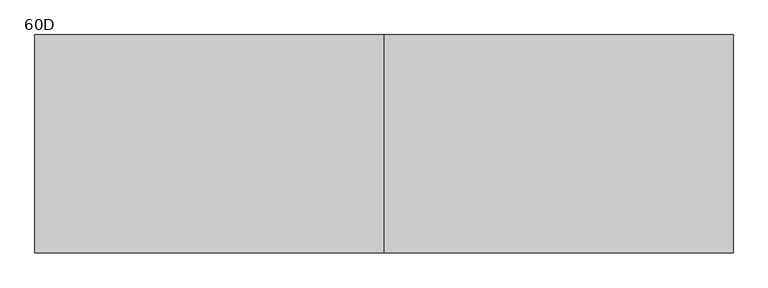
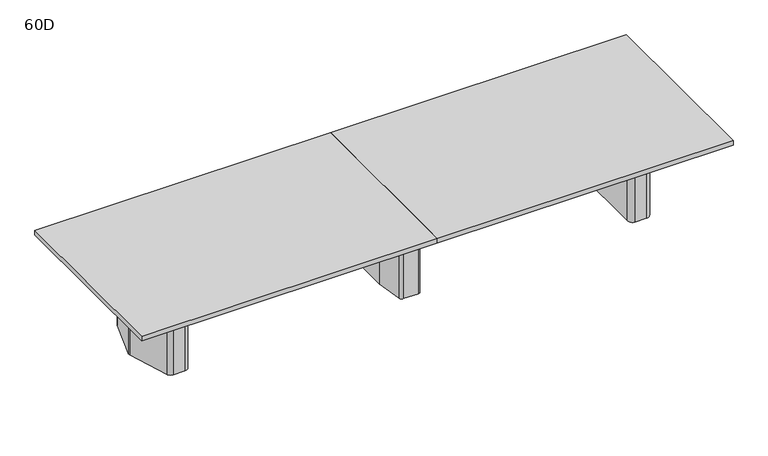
"""IFC4 building model written with IfcOpenShell, lengths in millimetres: furniture geometry, Coalesse_AM_Table_Conference_ETable2_Rectangular_16ft_ThreeBase : 60D."""

import ifcopenshell
import ifcopenshell.guid

model = None  # the IFC model being written
_history = None  # IfcOwnerHistory: only IFC2X3 demands one
_inside = {}  # id of a spatial element -> (the spatial element, [elements in it])
_under = {}  # id of a project, library or spatial element -> (it, [spatial elements below it])
_declared = {}  # id of a project -> (the project, [libraries it declares])
_typed = {}  # id of a type object -> (the type object, [elements of that type])
_made_of = {}  # id of a material, layer set ... -> (it, [elements and type objects made of it])


def new_model(schema):
    """Start an empty IFC model of exactly this schema.

    Asked for "IFC4X3", IfcOpenShell would pick the latest addendum, in which some entities
    have other attributes; the version numbers below select the first issue.
    IFC2X3 requires an IfcOwnerHistory on every rooted entity: one is made here for all.
    """
    global model, _history
    if schema == "IFC4X3":
        model = ifcopenshell.file(schema_version=(4, 3, 0, 0))
    else:
        model = ifcopenshell.file(schema=schema)
    _inside.clear()
    _under.clear()
    _declared.clear()
    _typed.clear()
    _made_of.clear()
    _history = None
    if model.schema == "IFC2X3":
        org = make("IfcOrganization", Name="unknown")
        user = make(
            "IfcPersonAndOrganization",
            ThePerson=make("IfcPerson", FamilyName="unknown"),
            TheOrganization=org,
        )
        app = make(
            "IfcApplication",
            ApplicationDeveloper=org,
            Version="unknown",
            ApplicationFullName="unknown",
            ApplicationIdentifier="unknown",
        )
        _history = make(
            "IfcOwnerHistory",
            OwningUser=user,
            OwningApplication=app,
            ChangeAction="ADDED",
            CreationDate=0,
        )
    return model


def make(cls, **values):
    """One entity of the class cls with the attributes given. An attribute that is None is left unset."""
    return model.create_entity(
        cls, **{name: value for name, value in values.items() if value is not None}
    )


def rooted(cls, **values):
    """An entity with a GlobalId (a new one), such as an element, a storey or a relation."""
    return make(cls, GlobalId=ifcopenshell.guid.new(), OwnerHistory=_history, **values)


def si_unit(unit_type, name, prefix=None):
    """IfcSIUnit, for example si_unit("LENGTHUNIT", "METRE", prefix="MILLI")."""
    return make("IfcSIUnit", UnitType=unit_type, Prefix=prefix, Name=name)


def assignment(units):
    """IfcUnitAssignment: the units of a project."""
    return None if units is None else make("IfcUnitAssignment", Units=units)


def point(xyz):
    """IfcCartesianPoint."""
    return None if xyz is None else make("IfcCartesianPoint", Coordinates=xyz)


def direction(xyz):
    """IfcDirection."""
    return None if xyz is None else make("IfcDirection", DirectionRatios=xyz)


def frame(location, z_axis=None, x_axis=None):
    """IfcAxis2Placement3D, a coordinate frame: its origin and axes. An axis left out is left unset."""
    return make(
        "IfcAxis2Placement3D",
        Location=point(location),
        Axis=direction(z_axis),
        RefDirection=direction(x_axis),
    )


def frame_2d(location, x_axis=None):
    """IfcAxis2Placement2D, a coordinate frame in the plane: its origin and x axis."""
    return make(
        "IfcAxis2Placement2D", Location=point(location), RefDirection=direction(x_axis)
    )


def origin():
    """The frame at (0, 0, 0) with its axes left unset."""
    return frame((0.0, 0.0, 0.0))


def origin_with_axes():
    """The frame at (0, 0, 0) with the z axis (0, 0, 1) and the x axis (1, 0, 0) written out."""
    return frame((0.0, 0.0, 0.0), z_axis=(0.0, 0.0, 1.0), x_axis=(1.0, 0.0, 0.0))


def place(relative_to, where):
    """IfcLocalPlacement: puts the frame where relative to a parent placement (None: the world)."""
    return make(
        "IfcLocalPlacement", PlacementRelTo=relative_to, RelativePlacement=where
    )


def context(
    kind, dimensions, precision=None, world=None, true_north=None, identifier=None
):
    """IfcGeometricRepresentationContext, for example the 3D "Model" context."""
    return make(
        "IfcGeometricRepresentationContext",
        ContextIdentifier=identifier,
        ContextType=kind,
        CoordinateSpaceDimension=dimensions,
        Precision=precision,
        WorldCoordinateSystem=world,
        TrueNorth=true_north,
    )


def project(units=None, contexts=None):
    """IfcProject with its units and contexts."""
    return rooted(
        "IfcProject",
        Name="project",
        RepresentationContexts=contexts,
        UnitsInContext=assignment(units),
    )


def spatial(cls, under=None, at=None, **own):
    """A site, building, storey or space (cls), placed at a placement, below another one or the project."""
    s = rooted(cls, ObjectPlacement=at, **own)
    if under is not None:
        _under.setdefault(under.id(), (under, []))[1].append(s)
    return s


def polyline(points):
    """IfcPolyline through the points."""
    return make("IfcPolyline", Points=[point(p) for p in points])


def circle_curve(where, radius):
    """IfcCircle in the frame where."""
    return make("IfcCircle", Position=where, Radius=radius)


def trimmed(basis, trim1, trim2, sense, master):
    """IfcTrimmedCurve: the piece of a basis curve between two trims."""
    return make(
        "IfcTrimmedCurve",
        BasisCurve=basis,
        Trim1=trim1,
        Trim2=trim2,
        SenseAgreement=sense,
        MasterRepresentation=master,
    )


def segment(curve, same_sense, transition):
    """IfcCompositeCurveSegment."""
    return make(
        "IfcCompositeCurveSegment",
        Transition=transition,
        SameSense=same_sense,
        ParentCurve=curve,
    )


def composite_curve(segments, self_intersect=None):
    """IfcCompositeCurve: segments joined end to end."""
    return make("IfcCompositeCurve", Segments=segments, SelfIntersect=self_intersect)


def outline(outer, holes=None, kind="AREA"):
    """IfcArbitraryClosedProfileDef: a profile drawn as a closed curve; with holes, ...WithVoids."""
    if holes is None:
        return make("IfcArbitraryClosedProfileDef", ProfileType=kind, OuterCurve=outer)
    return make(
        "IfcArbitraryProfileDefWithVoids",
        ProfileType=kind,
        OuterCurve=outer,
        InnerCurves=holes,
    )


def extrude(swept, where, along, depth):
    """IfcExtrudedAreaSolid: the profile swept, set in the frame where, extruded along a direction by depth."""
    return make(
        "IfcExtrudedAreaSolid",
        SweptArea=swept,
        Position=where,
        ExtrudedDirection=direction(along),
        Depth=depth,
    )


def shape(context_of_items, identifier, shape_type, items):
    """IfcShapeRepresentation: the items that make up one representation, for example the "Body"."""
    return make(
        "IfcShapeRepresentation",
        ContextOfItems=context_of_items,
        RepresentationIdentifier=identifier,
        RepresentationType=shape_type,
        Items=items,
    )


def source(mapping_origin, context_of_items, identifier, shape_type, items):
    """IfcRepresentationMap: a shape defined once, which mapped items show again and again."""
    return make(
        "IfcRepresentationMap",
        MappingOrigin=mapping_origin,
        MappedRepresentation=shape(context_of_items, identifier, shape_type, items),
    )


def transform(
    local_origin,
    x_axis=None,
    y_axis=None,
    z_axis=None,
    scale=None,
    scale2=None,
    scale3=None,
    uniform=True,
):
    """IfcCartesianTransformationOperator3D, or its non-uniform kind. x_axis, y_axis, z_axis: its Axis1, 2, 3."""
    if uniform:
        return make(
            "IfcCartesianTransformationOperator3D",
            Axis1=direction(x_axis),
            Axis2=direction(y_axis),
            LocalOrigin=point(local_origin),
            Scale=scale,
            Axis3=direction(z_axis),
        )
    return make(
        "IfcCartesianTransformationOperator3DnonUniform",
        Axis1=direction(x_axis),
        Axis2=direction(y_axis),
        LocalOrigin=point(local_origin),
        Scale=scale,
        Axis3=direction(z_axis),
        Scale2=scale2,
        Scale3=scale3,
    )


def mapped(mapping_source, mapping_target):
    """IfcMappedItem: shows the shape of a source again, moved by a transform."""
    return make(
        "IfcMappedItem", MappingSource=mapping_source, MappingTarget=mapping_target
    )


def made_of(thing, what):
    """Note that an element or type object is made of a material, layer set ...; save() writes the relation."""
    if what is not None:
        _made_of.setdefault(what.id(), (what, []))[1].append(thing)
    return thing


def element(
    cls,
    number,
    at=None,
    inside=None,
    cuts=None,
    type_object=None,
    material=None,
    context=None,
    identifier="Body",
    shape_type=None,
    held_by="IfcProductDefinitionShape",
    body=None,
    shapes=None,
    **own,
):
    """One element of the class cls, such as IfcWall. Its Tag is "e" and its number.

    at: its placement. inside: the storey or other place that contains it. cuts: it is an
    opening in that element (IfcRelVoidsElement). A single representation is given by context,
    identifier, shape_type and body (its items); several are given by shapes. held_by: the class
    of the entity that holds the representations. save() writes the other relations.
    """
    e = rooted(cls, Tag="e%d" % number, ObjectPlacement=at, **own)
    if body is not None:
        shapes = [shape(context, identifier, shape_type, body)]
    if shapes is not None:
        e.Representation = make(held_by, Representations=shapes)
    if inside is not None:
        _inside.setdefault(inside.id(), (inside, []))[1].append(e)
    if cuts is not None:
        rooted(
            "IfcRelVoidsElement", RelatingBuildingElement=cuts, RelatedOpeningElement=e
        )
    if type_object is not None:
        _typed.setdefault(type_object.id(), (type_object, []))[1].append(e)
    return made_of(e, material)


def aggregate(whole, parts):
    """IfcRelAggregates: a whole, such as a stair, and the parts it consists of."""
    return rooted("IfcRelAggregates", RelatingObject=whole, RelatedObjects=parts)


def save(model, path):
    """Write the relations noted so far, then the file.

    IfcRelAggregates (storeys below a building ...), IfcRelContainedInSpatialStructure (elements
    in a storey), IfcRelDefinesByType, IfcRelAssociatesMaterial and IfcRelDeclares: one each for
    every whole, place, type object, material and project.
    """
    for whole, parts in _under.values():
        aggregate(whole, parts)
    for where, things in _inside.values():
        rooted(
            "IfcRelContainedInSpatialStructure",
            RelatedElements=things,
            RelatingStructure=where,
        )
    for kind, things in _typed.values():
        rooted("IfcRelDefinesByType", RelatedObjects=things, RelatingType=kind)
    for what, things in _made_of.values():
        rooted("IfcRelAssociatesMaterial", RelatedObjects=things, RelatingMaterial=what)
    for by, libraries in _declared.values():
        rooted("IfcRelDeclares", RelatingContext=by, RelatedDefinitions=libraries)
    model.write(path)


def plane_surface(at):
    """IfcPlane: the flat surface through the origin of the frame at, square to its z axis."""
    return make("IfcPlane", Position=at)


def cylinder_surface(at, radius):
    """IfcCylindricalSurface: all points at the distance radius from the z axis of the frame at."""
    return make("IfcCylindricalSurface", Position=at, Radius=radius)


def revolved_surface(curve, axis_point, axis_direction):
    """IfcSurfaceOfRevolution: the curve turned about the line through axis_point along axis_direction."""
    return make(
        "IfcSurfaceOfRevolution",
        SweptCurve=make("IfcArbitraryOpenProfileDef", ProfileType="CURVE", Curve=curve),
        AxisPosition=make("IfcAxis1Placement", Location=point(axis_point), Axis=direction(axis_direction)),
    )


def advanced_brep(points, edges, surfaces, faces):
    """IfcAdvancedBrep: a solid bounded by faces that lie on surfaces and meet in shared edges.

    An edge is (start, end): straight between two places in points (the first is 0);
    or (start, end, curve); or (start, end, curve, False) where it runs against its curve.
    A face is (place in surfaces, loops), or (place, loops, False) where it looks against
    its surface's normal. A loop lists edges by number (the first is 1), with a minus sign
    where the edge is run from its end to its start. The first loop is the outer one.
    """
    corners = [point(p) for p in points]
    vertices = [make("IfcVertexPoint", VertexGeometry=c) for c in corners]
    made = []
    for start, end, *more in edges:
        made.append(
            make(
                "IfcEdgeCurve",
                EdgeStart=vertices[start],
                EdgeEnd=vertices[end],
                EdgeGeometry=more[0] if more else make("IfcPolyline", Points=[corners[start], corners[end]]),
                SameSense=more[1] if len(more) > 1 else True,
            )
        )
    hull = []
    for where, loops, *sense in faces:
        bounds = []
        for j, loop in enumerate(loops):
            ring = [make("IfcOrientedEdge", EdgeElement=made[abs(k) - 1], Orientation=k > 0) for k in loop]
            bounds.append(
                make(
                    "IfcFaceOuterBound" if j == 0 else "IfcFaceBound",
                    Bound=make("IfcEdgeLoop", EdgeList=ring),
                    Orientation=True,
                )
            )
        hull.append(make("IfcAdvancedFace", Bounds=bounds, FaceSurface=surfaces[where], SameSense=sense[0] if sense else True))
    return make("IfcAdvancedBrep", Outer=make("IfcClosedShell", CfsFaces=hull))


def furniture_60d_2ea66542(model_context):
    return source(origin(), model_context, "Body", "SolidModel", [
        advanced_brep(
        [(61.0357815, 381.0, 698.5), (-61.0357815, 381.0, 698.5), (-86.1885994, 359.1349332, 698.5), (-117.2278179, 138.2753661, 698.5), (-117.475, 134.740433, 698.5), (-117.475, -134.7404196, 698.5), (-117.2278463, -138.2751502, 698.5), (-86.1904395, -359.1347306, 698.5), (-61.0375932, -381.0, 698.5), (61.0375932, -381.0, 698.5), (86.1904395, -359.1347306, 698.5), (117.2278463, -138.2751502, 698.5), (117.475, -134.7404196, 698.5), (117.475, 134.740433, 698.5), (117.2278179, 138.2753661, 698.5), (86.1885994, 359.1349332, 698.5), (25.4, 314.325, 698.5), (50.8, 288.925, 698.5), (50.8, -288.925, 698.5), (25.4, -314.325, 698.5), (-25.4, -314.325, 698.5), (-50.8, -288.925, 698.5), (-50.8, 288.925, 698.5), (-25.4, 314.325, 698.5), (61.0357815, 381.0, 3.175), (86.1885994, 359.1349332, 3.175), (117.2278179, 138.2753661, 3.175), (117.475, 134.740433, 3.175), (117.475, -134.7404196, 3.175), (117.2278463, -138.2751502, 3.175), (86.1904395, -359.1347306, 3.175), (61.0375932, -381.0, 3.175), (-61.0375932, -381.0, 3.175), (-86.1904395, -359.1347306, 3.175), (-117.2278463, -138.2751502, 3.175), (-117.475, -134.7404196, 3.175), (-117.475, 134.740433, 3.175), (-117.2278179, 138.2753661, 3.175), (-86.1885994, 359.1349332, 3.175), (-61.0357815, 381.0, 3.175), (25.4, 327.025, 3.175), (-25.4, 327.025, 3.175), (-63.5, 288.925, 3.175), (-63.5, -288.925, 3.175), (-25.4, -327.025, 3.175), (25.4, -327.025, 3.175), (63.5, -288.925, 3.175), (63.5, 288.925, 3.175), (25.4, 314.325, 3.175), (50.8, 288.925, 3.175), (50.8, -288.925, 3.175), (25.4, -314.325, 3.175), (-25.4, -314.325, 3.175), (-50.8, -288.925, 3.175), (-50.8, 288.925, 3.175), (-25.4, 314.325, 3.175), (25.4, 327.025, 0.0), (63.5, 288.925, 0.0), (63.5, -288.925, 0.0), (25.4, -327.025, 0.0), (-25.4, -327.025, 0.0), (-63.5, -288.925, 0.0), (-63.5, 288.925, 0.0), (-25.4, 327.025, 0.0)],
        [
            (0, 1),
            (1, 2, circle_curve(frame((-61.0357815, 355.6, 698.5), z_axis=(0.0, 0.0, 1.0), x_axis=(1.0, 0.0, 0.0)), 25.4)),
            (2, 3),
            (3, 4, circle_curve(frame((-92.075, 134.740433, 698.5), z_axis=(0.0, 0.0, 1.0), x_axis=(1.0, 0.0, 0.0)), 25.4)),
            (4, 5),
            (5, 6, circle_curve(frame((-92.075, -134.7404196, 698.5), z_axis=(0.0, 0.0, 1.0), x_axis=(1.0, 0.0, 0.0)), 25.4)),
            (6, 7),
            (7, 8, circle_curve(frame((-61.0375932, -355.6, 698.5), z_axis=(0.0, 0.0, 1.0), x_axis=(1.0, 0.0, 0.0)), 25.4)),
            (8, 9),
            (9, 10, circle_curve(frame((61.0375932, -355.6, 698.5), z_axis=(0.0, 0.0, 1.0), x_axis=(1.0, 0.0, 0.0)), 25.4)),
            (10, 11),
            (11, 12, circle_curve(frame((92.075, -134.7404196, 698.5), z_axis=(0.0, 0.0, 1.0), x_axis=(1.0, 0.0, 0.0)), 25.4)),
            (12, 13),
            (13, 14, circle_curve(frame((92.075, 134.740433, 698.5), z_axis=(0.0, 0.0, 1.0), x_axis=(1.0, 0.0, 0.0)), 25.4)),
            (14, 15),
            (15, 0, circle_curve(frame((61.0357815, 355.6, 698.5), z_axis=(0.0, 0.0, 1.0), x_axis=(1.0, 0.0, 0.0)), 25.4)),
            (16, 17, circle_curve(frame((25.4, 288.925, 698.5), z_axis=(0.0, 0.0, -1.0), x_axis=(1.0, 0.0, 0.0)), 25.4)),
            (17, 18),
            (18, 19, circle_curve(frame((25.4, -288.925, 698.5), z_axis=(0.0, 0.0, -1.0), x_axis=(1.0, 0.0, 0.0)), 25.4)),
            (19, 20),
            (20, 21, circle_curve(frame((-25.4, -288.925, 698.5), z_axis=(0.0, 0.0, -1.0), x_axis=(1.0, 0.0, 0.0)), 25.4)),
            (21, 22),
            (22, 23, circle_curve(frame((-25.4, 288.925, 698.5), z_axis=(0.0, 0.0, -1.0), x_axis=(1.0, 0.0, 0.0)), 25.4)),
            (23, 16),
            (24, 25, circle_curve(frame((61.0357815, 355.6, 3.175), z_axis=(0.0, 0.0, -1.0), x_axis=(1.0, 0.0, 0.0)), 25.4)),
            (25, 26),
            (26, 27, circle_curve(frame((92.075, 134.740433, 3.175), z_axis=(0.0, 0.0, -1.0), x_axis=(1.0, 0.0, 0.0)), 25.4)),
            (27, 28),
            (28, 29, circle_curve(frame((92.075, -134.7404196, 3.175), z_axis=(0.0, 0.0, -1.0), x_axis=(1.0, 0.0, 0.0)), 25.4)),
            (29, 30),
            (30, 31, circle_curve(frame((61.0375932, -355.6, 3.175), z_axis=(0.0, 0.0, -1.0), x_axis=(1.0, 0.0, 0.0)), 25.4)),
            (31, 32),
            (32, 33, circle_curve(frame((-61.0375932, -355.6, 3.175), z_axis=(0.0, 0.0, -1.0), x_axis=(1.0, 0.0, 0.0)), 25.4)),
            (33, 34),
            (34, 35, circle_curve(frame((-92.075, -134.7404196, 3.175), z_axis=(0.0, 0.0, -1.0), x_axis=(1.0, 0.0, 0.0)), 25.4)),
            (35, 36),
            (36, 37, circle_curve(frame((-92.075, 134.740433, 3.175), z_axis=(0.0, 0.0, -1.0), x_axis=(1.0, 0.0, 0.0)), 25.4)),
            (37, 38),
            (38, 39, circle_curve(frame((-61.0357815, 355.6, 3.175), z_axis=(0.0, 0.0, -1.0), x_axis=(1.0, 0.0, 0.0)), 25.4)),
            (39, 24),
            (40, 41),
            (41, 42, circle_curve(frame((-25.4, 288.925, 3.175), z_axis=(0.0, 0.0, 1.0), x_axis=(1.0, 0.0, 0.0)), 38.1)),
            (42, 43),
            (43, 44, circle_curve(frame((-25.4, -288.925, 3.175), z_axis=(0.0, 0.0, 1.0), x_axis=(1.0, 0.0, 0.0)), 38.1)),
            (44, 45),
            (45, 46, circle_curve(frame((25.4, -288.925, 3.175), z_axis=(0.0, 0.0, 1.0), x_axis=(1.0, 0.0, 0.0)), 38.1)),
            (46, 47),
            (47, 40, circle_curve(frame((25.4, 288.925, 3.175), z_axis=(0.0, 0.0, 1.0), x_axis=(1.0, 0.0, 0.0)), 38.1)),
            (0, 24),
            (39, 1),
            (38, 2),
            (37, 3),
            (36, 4),
            (35, 5),
            (34, 6),
            (33, 7),
            (32, 8),
            (31, 9),
            (30, 10),
            (29, 11),
            (28, 12),
            (27, 13),
            (26, 14),
            (25, 15),
            (16, 48),
            (48, 49, circle_curve(frame((25.4, 288.925, 3.175), z_axis=(0.0, 0.0, -1.0), x_axis=(1.0, 0.0, 0.0)), 25.4)),
            (49, 17),
            (49, 50),
            (50, 18),
            (50, 51, circle_curve(frame((25.4, -288.925, 3.175), z_axis=(0.0, 0.0, -1.0), x_axis=(1.0, 0.0, 0.0)), 25.4)),
            (51, 19),
            (51, 52),
            (52, 20),
            (52, 53, circle_curve(frame((-25.4, -288.925, 3.175), z_axis=(0.0, 0.0, -1.0), x_axis=(1.0, 0.0, 0.0)), 25.4)),
            (53, 21),
            (53, 54),
            (54, 22),
            (54, 55, circle_curve(frame((-25.4, 288.925, 3.175), z_axis=(0.0, 0.0, -1.0), x_axis=(1.0, 0.0, 0.0)), 25.4)),
            (55, 23),
            (55, 48),
            (56, 57, circle_curve(frame((25.4, 288.925, 0.0), z_axis=(0.0, 0.0, -1.0), x_axis=(1.0, 0.0, 0.0)), 38.1)),
            (57, 58),
            (58, 59, circle_curve(frame((25.4, -288.925, 0.0), z_axis=(0.0, 0.0, -1.0), x_axis=(1.0, 0.0, 0.0)), 38.1)),
            (59, 60),
            (60, 61, circle_curve(frame((-25.4, -288.925, 0.0), z_axis=(0.0, 0.0, -1.0), x_axis=(1.0, 0.0, 0.0)), 38.1)),
            (61, 62),
            (62, 63, circle_curve(frame((-25.4, 288.925, 0.0), z_axis=(0.0, 0.0, -1.0), x_axis=(1.0, 0.0, 0.0)), 38.1)),
            (63, 56),
            (63, 41),
            (40, 56),
            (62, 42),
            (61, 43),
            (60, 44),
            (59, 45),
            (58, 46),
            (57, 47),
        ],
        [
            plane_surface(frame((-1524.0, 381.0, 698.5), z_axis=(0.0, 0.0, 1.0), x_axis=(-1.0, 0.0, 0.0))),
            plane_surface(frame((-1524.0, 381.0, 3.175), z_axis=(0.0, 0.0, -1.0), x_axis=(1.0, 0.0, 0.0))),
            plane_surface(frame((61.0357815, 381.0, 698.5), z_axis=(0.0, 1.0, 0.0), x_axis=(0.0, 0.0, -1.0))),
            cylinder_surface(frame((-61.0357815, 355.6, 3.175), z_axis=(0.0, 0.0, 1.0), x_axis=(1.0, 0.0, 0.0)), 25.4),
            plane_surface(frame((-86.1885994, 359.1349332, 698.5), z_axis=(-0.9902684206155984, 0.13917059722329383, 0.0), x_axis=(0.0, 0.0, -1.0))),
            cylinder_surface(frame((-92.075, 134.740433, 3.175), z_axis=(0.0, 0.0, 1.0), x_axis=(1.0, 0.0, 0.0)), 25.4),
            plane_surface(frame((-117.475, 134.740433, 698.5), z_axis=(-1.0, 0.0, 0.0), x_axis=(0.0, 0.0, -1.0))),
            cylinder_surface(frame((-92.075, -134.7404196, 3.175), z_axis=(0.0, 0.0, 1.0), x_axis=(1.0, 0.0, 0.0)), 25.4),
            plane_surface(frame((-117.2278463, -138.2751502, 698.5), z_axis=(-0.9902695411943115, -0.1391626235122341, 0.0), x_axis=(0.0, 0.0, -1.0))),
            cylinder_surface(frame((-61.0375932, -355.6, 3.175), z_axis=(0.0, 0.0, 1.0), x_axis=(1.0, 0.0, 0.0)), 25.4),
            plane_surface(frame((-61.0375932, -381.0, 698.5), z_axis=(0.0, -1.0, 0.0), x_axis=(0.0, 0.0, -1.0))),
            cylinder_surface(frame((61.0375932, -355.6, 3.175), z_axis=(0.0, 0.0, 1.0), x_axis=(1.0, 0.0, 0.0)), 25.4),
            plane_surface(frame((86.1904395, -359.1347306, 698.5), z_axis=(0.9902695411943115, -0.1391626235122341, 0.0), x_axis=(0.0, 0.0, -1.0))),
            cylinder_surface(frame((92.075, -134.7404196, 3.175), z_axis=(0.0, 0.0, 1.0), x_axis=(1.0, 0.0, 0.0)), 25.4),
            plane_surface(frame((117.475, -134.7404196, 698.5), z_axis=(1.0, 0.0, 0.0), x_axis=(0.0, 0.0, -1.0))),
            cylinder_surface(frame((92.075, 134.740433, 3.175), z_axis=(0.0, 0.0, 1.0), x_axis=(1.0, 0.0, 0.0)), 25.4),
            plane_surface(frame((117.2278179, 138.2753661, 698.5), z_axis=(0.9902684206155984, 0.13917059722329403, 0.0), x_axis=(0.0, 0.0, -1.0))),
            cylinder_surface(frame((61.0357815, 355.6, 3.175), z_axis=(0.0, 0.0, 1.0), x_axis=(1.0, 0.0, 0.0)), 25.4),
            revolved_surface(polyline([(50.8, 288.925, 3.175), (50.8, 288.925, 698.5)]), (25.4, 288.925, 0.0), (0.0, 0.0, -1.0)),
            plane_surface(frame((50.8, 288.925, 698.5), z_axis=(-1.0, 0.0, 0.0), x_axis=(0.0, 0.0, -1.0))),
            revolved_surface(polyline([(50.8, -288.925, 3.175), (50.8, -288.925, 698.5)]), (25.4, -288.925, 0.0), (0.0, 0.0, -1.0)),
            plane_surface(frame((25.4, -314.325, 698.5), z_axis=(0.0, 1.0, 0.0), x_axis=(0.0, 0.0, -1.0))),
            revolved_surface(polyline([(0.0, -288.925, 3.175), (0.0, -288.925, 698.5)]), (-25.4, -288.925, 0.0), (0.0, 0.0, -1.0)),
            plane_surface(frame((-50.8, -288.925, 698.5), z_axis=(1.0, 0.0, 0.0), x_axis=(0.0, 0.0, -1.0))),
            revolved_surface(polyline([(0.0, 288.925, 3.175), (0.0, 288.925, 698.5)]), (-25.4, 288.925, 0.0), (0.0, 0.0, -1.0)),
            plane_surface(frame((-25.4, 314.325, 698.5), z_axis=(0.0, -1.0, 0.0), x_axis=(0.0, 0.0, -1.0))),
            plane_surface(frame((-50.8, 327.025, 3.175), z_axis=(0.0, 0.0, 1.0), x_axis=(-1.0, 0.0, 0.0))),
            plane_surface(frame((-50.8, 327.025, 0.0), z_axis=(0.0, 0.0, -1.0), x_axis=(1.0, 0.0, 0.0))),
            plane_surface(frame((25.4, 327.025, 3.175), z_axis=(0.0, 1.0, 0.0), x_axis=(0.0, 0.0, -1.0))),
            cylinder_surface(frame((-25.4, 288.925, 0.0), z_axis=(0.0, 0.0, 1.0), x_axis=(1.0, 0.0, 0.0)), 38.1),
            plane_surface(frame((-63.5, 288.925, 3.175), z_axis=(-1.0, 0.0, 0.0), x_axis=(0.0, 0.0, -1.0))),
            cylinder_surface(frame((-25.4, -288.925, 0.0), z_axis=(0.0, 0.0, 1.0), x_axis=(1.0, 0.0, 0.0)), 38.1),
            plane_surface(frame((-25.4, -327.025, 3.175), z_axis=(0.0, -1.0, 0.0), x_axis=(0.0, 0.0, -1.0))),
            cylinder_surface(frame((25.4, -288.925, 0.0), z_axis=(0.0, 0.0, 1.0), x_axis=(1.0, 0.0, 0.0)), 38.1),
            plane_surface(frame((63.5, -288.925, 3.175), z_axis=(1.0, 0.0, 0.0), x_axis=(0.0, 0.0, -1.0))),
            cylinder_surface(frame((25.4, 288.925, 0.0), z_axis=(0.0, 0.0, 1.0), x_axis=(1.0, 0.0, 0.0)), 38.1),
        ],
        [
            (0, [[1, 2, 3, 4, 5, 6, 7, 8, 9, 10, 11, 12, 13, 14, 15, 16], [17, 18, 19, 20, 21, 22, 23, 24]]),
            (1, [[25, 26, 27, 28, 29, 30, 31, 32, 33, 34, 35, 36, 37, 38, 39, 40], [41, 42, 43, 44, 45, 46, 47, 48]]),
            (2, [[-1, 49, -40, 50]]),
            (3, [[-2, -50, -39, 51]]),
            (4, [[-3, -51, -38, 52]]),
            (5, [[-4, -52, -37, 53]]),
            (6, [[-5, -53, -36, 54]]),
            (7, [[-6, -54, -35, 55]]),
            (8, [[-7, -55, -34, 56]]),
            (9, [[-8, -56, -33, 57]]),
            (10, [[-9, -57, -32, 58]]),
            (11, [[-10, -58, -31, 59]]),
            (12, [[-11, -59, -30, 60]]),
            (13, [[-12, -60, -29, 61]]),
            (14, [[-13, -61, -28, 62]]),
            (15, [[-14, -62, -27, 63]]),
            (16, [[-15, -63, -26, 64]]),
            (17, [[-16, -64, -25, -49]]),
            (18, [[-17, 65, 66, 67]]),
            (19, [[-18, -67, 68, 69]]),
            (20, [[-19, -69, 70, 71]]),
            (21, [[-20, -71, 72, 73]]),
            (22, [[-21, -73, 74, 75]]),
            (23, [[-22, -75, 76, 77]]),
            (24, [[-23, -77, 78, 79]]),
            (25, [[-24, -79, 80, -65]]),
            (26, [[-66, -80, -78, -76, -74, -72, -70, -68]]),
            (27, [[81, 82, 83, 84, 85, 86, 87, 88]]),
            (28, [[-88, 89, -41, 90]]),
            (29, [[-87, 91, -42, -89]]),
            (30, [[-86, 92, -43, -91]]),
            (31, [[-85, 93, -44, -92]]),
            (32, [[-84, 94, -45, -93]]),
            (33, [[-83, 95, -46, -94]]),
            (34, [[-82, 96, -47, -95]]),
            (35, [[-81, -90, -48, -96]]),
        ],
    ),
        extrude(outline(composite_curve([segment(polyline([(2036.7625, 101.7236478), (2036.7625, -97.2761514)]), True, "CONTINUOUS"), segment(trimmed(circle_curve(frame_2d((1998.6625, -97.2761514)), 38.1), [point((2036.7625, -97.2761514))], [point((2034.9991129, -108.7330515))], False, "CARTESIAN"), True, "CONTINUOUS"), segment(polyline([(2034.9991129, -108.7330515), (1976.5745591, -294.0319001)]), True, "CONTINUOUS"), segment(trimmed(circle_curve(frame_2d((1940.2379462, -282.575)), 38.1), [point((1976.5745591, -294.0319001))], [point((1940.2379462, -320.675))], False, "CARTESIAN"), True, "CONTINUOUS"), segment(polyline([(1940.2379462, -320.675), (1873.25, -320.675)]), True, "CONTINUOUS"), segment(trimmed(circle_curve(frame_2d((1873.25, -282.575)), 38.1), [point((1873.25, -320.675))], [point((1835.15, -282.575))], False, "CARTESIAN"), True, "CONTINUOUS"), segment(polyline([(1835.15, -282.575), (1835.15, 282.575)]), True, "CONTINUOUS"), segment(trimmed(circle_curve(frame_2d((1873.25, 282.575)), 38.1), [point((1835.15, 282.575))], [point((1873.25, 320.675))], False, "CARTESIAN"), True, "CONTINUOUS"), segment(polyline([(1873.25, 320.675), (1943.9873998, 320.675)]), True, "CONTINUOUS"), segment(trimmed(circle_curve(frame_2d((1943.9873998, 282.575)), 38.1), [point((1943.9873998, 320.675))], [point((1980.4572049, 293.6005756))], False, "CARTESIAN"), True, "CONTINUOUS"), segment(polyline([(1980.4572049, 293.6005756), (2035.1323051, 112.7492234)]), True, "CONTINUOUS"), segment(trimmed(circle_curve(frame_2d((1998.6625, 101.7236478)), 38.1), [point((2035.1323051, 112.7492234))], [point((2036.7625, 101.7236478))], False, "CARTESIAN"), True, "CONTINUOUS")], self_intersect=False)), origin_with_axes(), (0.0, 0.0, 1.0), 3.175),
        extrude(outline(composite_curve([segment(polyline([(1857.375, 381.0), (1945.5221663, 381.0)]), True, "CONTINUOUS"), segment(trimmed(circle_curve(frame_2d((1945.5221663, 339.725)), 41.275), [point((1945.5221663, 381.0))], [point((1984.8868303, 352.1366418))], False, "CARTESIAN"), True, "CONTINUOUS"), segment(polyline([(1984.8868303, 352.1366418), (2092.0018053, 12.4116418)]), True, "CONTINUOUS"), segment(trimmed(circle_curve(frame_2d((2052.6371413, 0.0)), 41.275), [point((2092.0018053, 12.4116418))], [point((2092.0018053, -12.4116418))], False, "CARTESIAN"), True, "CONTINUOUS"), segment(polyline([(2092.0018053, -12.4116418), (1984.8868303, -352.1366418)]), True, "CONTINUOUS"), segment(trimmed(circle_curve(frame_2d((1945.5221663, -339.725)), 41.275), [point((1984.8868303, -352.1366418))], [point((1945.5221663, -381.0))], False, "CARTESIAN"), True, "CONTINUOUS"), segment(polyline([(1945.5221663, -381.0), (1851.025, -381.0)]), True, "CONTINUOUS"), segment(trimmed(circle_curve(frame_2d((1851.025, -339.725)), 41.275), [point((1851.025, -381.0))], [point((1809.75, -339.725))], False, "CARTESIAN"), True, "CONTINUOUS"), segment(polyline([(1809.75, -339.725), (1809.75, 333.375)]), True, "CONTINUOUS"), segment(trimmed(circle_curve(frame_2d((1857.375, 333.375)), 47.625), [point((1809.75, 333.375))], [point((1857.375, 381.0))], False, "CARTESIAN"), True, "CONTINUOUS")], self_intersect=False), holes=[composite_curve([segment(trimmed(circle_curve(frame_2d((1873.25, -282.575)), 25.4), [point((1847.85, -282.575))], [point((1873.25, -307.975))], True, "CARTESIAN"), True, "CONTINUOUS"), segment(polyline([(1873.25, -307.975), (1940.2379462, -307.975)]), True, "CONTINUOUS"), segment(trimmed(circle_curve(frame_2d((1940.2379462, -282.575)), 25.4), [point((1940.2379462, -307.975))], [point((1964.4623548, -290.2129334))], True, "CARTESIAN"), True, "CONTINUOUS"), segment(polyline([(1964.4623548, -290.2129334), (2022.8869086, -104.9140848)]), True, "CONTINUOUS"), segment(trimmed(circle_curve(frame_2d((1998.6625, -97.2761514)), 25.4), [point((2022.8869086, -104.9140848))], [point((2024.0625, -97.2761514))], True, "CARTESIAN"), True, "CONTINUOUS"), segment(polyline([(2024.0625, -97.2761514), (2024.0625, 101.7236478)]), True, "CONTINUOUS"), segment(trimmed(circle_curve(frame_2d((1998.6625, 101.7236478)), 25.4), [point((2024.0625, 101.7236478))], [point((2022.9757034, 109.0740316))], True, "CARTESIAN"), True, "CONTINUOUS"), segment(polyline([(2022.9757034, 109.0740316), (1968.3006032, 289.9253837)]), True, "CONTINUOUS"), segment(trimmed(circle_curve(frame_2d((1943.9873998, 282.575)), 25.4), [point((1968.3006032, 289.9253837))], [point((1943.9873998, 307.975))], True, "CARTESIAN"), True, "CONTINUOUS"), segment(polyline([(1943.9873998, 307.975), (1873.25, 307.975)]), True, "CONTINUOUS"), segment(trimmed(circle_curve(frame_2d((1873.25, 282.575)), 25.4), [point((1873.25, 307.975))], [point((1847.85, 282.575))], True, "CARTESIAN"), True, "CONTINUOUS"), segment(polyline([(1847.85, 282.575), (1847.85, -282.575)]), True, "CONTINUOUS")], self_intersect=False)]), frame((0.0, 0.0, 3.175), z_axis=(0.0, 0.0, 1.0), x_axis=(1.0, 0.0, 0.0)), (0.0, 0.0, 1.0), 695.325),
        extrude(outline(composite_curve([segment(trimmed(circle_curve(frame_2d((-2009.775, 101.7236478)), 38.1), [point((-2047.875, 101.7236478))], [point((-2046.2448051, 112.7492234))], False, "CARTESIAN"), True, "CONTINUOUS"), segment(polyline([(-2046.2448051, 112.7492234), (-1991.5697049, 293.6005756)]), True, "CONTINUOUS"), segment(trimmed(circle_curve(frame_2d((-1955.0998998, 282.575)), 38.1), [point((-1991.5697049, 293.6005756))], [point((-1955.0998998, 320.675))], False, "CARTESIAN"), True, "CONTINUOUS"), segment(polyline([(-1955.0998998, 320.675), (-1884.3625, 320.675)]), True, "CONTINUOUS"), segment(trimmed(circle_curve(frame_2d((-1884.3625, 282.575)), 38.1), [point((-1884.3625, 320.675))], [point((-1846.2625, 282.575))], False, "CARTESIAN"), True, "CONTINUOUS"), segment(polyline([(-1846.2625, 282.575), (-1846.2625, -282.575)]), True, "CONTINUOUS"), segment(trimmed(circle_curve(frame_2d((-1884.3625, -282.575)), 38.1), [point((-1846.2625, -282.575))], [point((-1884.3625, -320.675))], False, "CARTESIAN"), True, "CONTINUOUS"), segment(polyline([(-1884.3625, -320.675), (-1951.3504462, -320.675)]), True, "CONTINUOUS"), segment(trimmed(circle_curve(frame_2d((-1951.3504462, -282.575)), 38.1), [point((-1951.3504462, -320.675))], [point((-1987.6870591, -294.0319001))], False, "CARTESIAN"), True, "CONTINUOUS"), segment(polyline([(-1987.6870591, -294.0319001), (-2046.1116129, -108.7330515)]), True, "CONTINUOUS"), segment(trimmed(circle_curve(frame_2d((-2009.775, -97.2761514)), 38.1), [point((-2046.1116129, -108.7330515))], [point((-2047.875, -97.2761514))], False, "CARTESIAN"), True, "CONTINUOUS"), segment(polyline([(-2047.875, -97.2761514), (-2047.875, 101.7236478)]), True, "CONTINUOUS")], self_intersect=False)), origin_with_axes(), (0.0, 0.0, 1.0), 3.175),
        extrude(outline(composite_curve([segment(trimmed(circle_curve(frame_2d((-1868.4875, 333.375)), 47.625), [point((-1868.4875, 381.0))], [point((-1820.8625, 333.375))], False, "CARTESIAN"), True, "CONTINUOUS"), segment(polyline([(-1820.8625, 333.375), (-1820.8625, -339.725)]), True, "CONTINUOUS"), segment(trimmed(circle_curve(frame_2d((-1862.1375, -339.725)), 41.275), [point((-1820.8625, -339.725))], [point((-1862.1375, -381.0))], False, "CARTESIAN"), True, "CONTINUOUS"), segment(polyline([(-1862.1375, -381.0), (-1956.6346663, -381.0)]), True, "CONTINUOUS"), segment(trimmed(circle_curve(frame_2d((-1956.6346663, -339.725)), 41.275), [point((-1956.6346663, -381.0))], [point((-1995.9993303, -352.1366418))], False, "CARTESIAN"), True, "CONTINUOUS"), segment(polyline([(-1995.9993303, -352.1366418), (-2103.1143053, -12.4116418)]), True, "CONTINUOUS"), segment(trimmed(circle_curve(frame_2d((-2063.7496413, 0.0)), 41.275), [point((-2103.1143053, -12.4116418))], [point((-2103.1143053, 12.4116418))], False, "CARTESIAN"), True, "CONTINUOUS"), segment(polyline([(-2103.1143053, 12.4116418), (-1995.9993303, 352.1366418)]), True, "CONTINUOUS"), segment(trimmed(circle_curve(frame_2d((-1956.6346663, 339.725)), 41.275), [point((-1995.9993303, 352.1366418))], [point((-1956.6346663, 381.0))], False, "CARTESIAN"), True, "CONTINUOUS"), segment(polyline([(-1956.6346663, 381.0), (-1868.4875, 381.0)]), True, "CONTINUOUS")], self_intersect=False), holes=[composite_curve([segment(polyline([(-1858.9625, -282.575), (-1858.9625, 282.575)]), True, "CONTINUOUS"), segment(trimmed(circle_curve(frame_2d((-1884.3625, 282.575)), 25.4), [point((-1858.9625, 282.575))], [point((-1884.3625, 307.975))], True, "CARTESIAN"), True, "CONTINUOUS"), segment(polyline([(-1884.3625, 307.975), (-1955.0998998, 307.975)]), True, "CONTINUOUS"), segment(trimmed(circle_curve(frame_2d((-1955.0998998, 282.575)), 25.4), [point((-1955.0998998, 307.975))], [point((-1979.4131032, 289.9253837))], True, "CARTESIAN"), True, "CONTINUOUS"), segment(polyline([(-1979.4131032, 289.9253837), (-2034.0882034, 109.0740316)]), True, "CONTINUOUS"), segment(trimmed(circle_curve(frame_2d((-2009.775, 101.7236478)), 25.4), [point((-2034.0882034, 109.0740316))], [point((-2035.175, 101.7236478))], True, "CARTESIAN"), True, "CONTINUOUS"), segment(polyline([(-2035.175, 101.7236478), (-2035.175, -97.2761514)]), True, "CONTINUOUS"), segment(trimmed(circle_curve(frame_2d((-2009.775, -97.2761514)), 25.4), [point((-2035.175, -97.2761514))], [point((-2033.9994086, -104.9140848))], True, "CARTESIAN"), True, "CONTINUOUS"), segment(polyline([(-2033.9994086, -104.9140848), (-1975.5748548, -290.2129334)]), True, "CONTINUOUS"), segment(trimmed(circle_curve(frame_2d((-1951.3504462, -282.575)), 25.4), [point((-1975.5748548, -290.2129334))], [point((-1951.3504462, -307.975))], True, "CARTESIAN"), True, "CONTINUOUS"), segment(polyline([(-1951.3504462, -307.975), (-1884.3625, -307.975)]), True, "CONTINUOUS"), segment(trimmed(circle_curve(frame_2d((-1884.3625, -282.575)), 25.4), [point((-1884.3625, -307.975))], [point((-1858.9625, -282.575))], True, "CARTESIAN"), True, "CONTINUOUS")], self_intersect=False)]), frame((0.0, 0.0, 3.175), z_axis=(0.0, 0.0, 1.0), x_axis=(1.0, 0.0, 0.0)), (0.0, 0.0, 1.0), 695.325),
        extrude(outline(polyline([(2438.4, 762.0), (2438.4, -762.0), (0.0, -762.0), (0.0, 762.0), (2438.4, 762.0)])), frame((0.0, 0.0, 698.5), z_axis=(0.0, 0.0, 1.0), x_axis=(1.0, 0.0, 0.0)), (0.0, 0.0, 1.0), 38.1),
        extrude(outline(polyline([(0.0, 762.0), (0.0, -762.0), (-2438.4, -762.0), (-2438.4, 762.0), (0.0, 762.0)])), frame((0.0, 0.0, 698.5), z_axis=(0.0, 0.0, 1.0), x_axis=(1.0, 0.0, 0.0)), (0.0, 0.0, 1.0), 38.1),
        extrude(outline(polyline([(96.8375, 698.5), (103.1875, 698.5), (103.1875, 476.25), (-103.1875, 476.25), (-103.1875, 698.5), (-96.8375, 698.5), (-96.8375, 482.6), (96.8375, 482.6), (96.8375, 698.5)])), frame((-1820.8625, 0.0, 0.0), z_axis=(1.0, 0.0, 0.0), x_axis=(0.0, 1.0, 0.0)), (0.0, 0.0, 1.0), 3630.6125),
    ])


if __name__ == "__main__":
    model = new_model("IFC4")
    model_context = context("Model", 3, world=origin())
    ifc_project = project(units=[si_unit("LENGTHUNIT", "METRE", prefix="MILLI")], contexts=[model_context])
    site = spatial("IfcSite", under=ifc_project)
    building = spatial("IfcBuilding", under=site)
    placement = place(None, origin())
    furniture_60d_shape = furniture_60d_2ea66542(model_context)
    element("IfcFurniture", 1, ObjectType="Coalesse_AM_Table_Conference_ETable2_Rectangular_16ft_ThreeBase : 60D", at=placement, inside=building, context=model_context, shape_type="MappedRepresentation", body=[
        mapped(furniture_60d_shape, transform((0.0, 0.0, 0.0), x_axis=(1.0, 0.0, 0.0), y_axis=(0.0, 1.0, 0.0), z_axis=(0.0, 0.0, 1.0))),
    ])
    save(model, "model.ifc")
